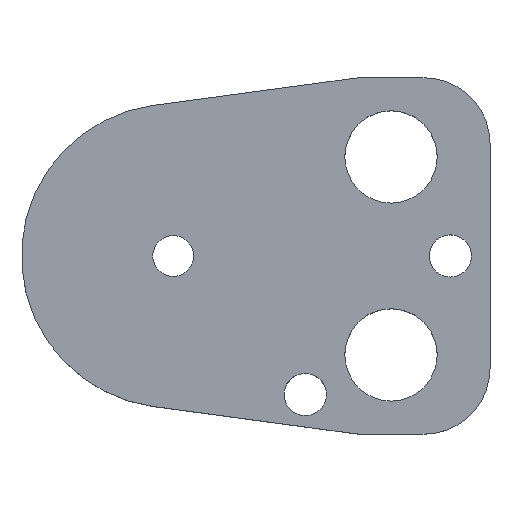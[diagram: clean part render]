
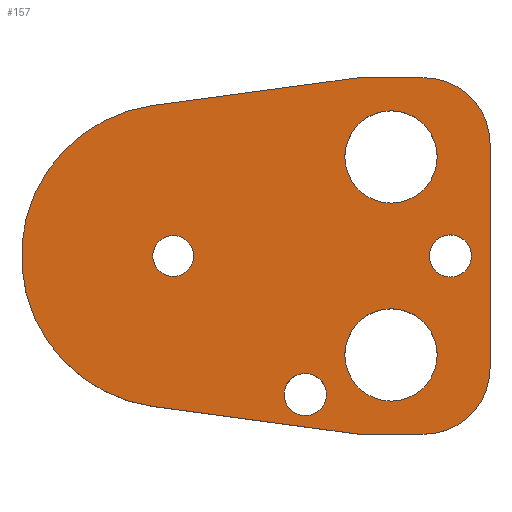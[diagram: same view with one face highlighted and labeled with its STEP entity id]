
A CAD part, top view. The second image highlights one B-rep face of the part: STEP entity #157.
In plain terms, the highlighted planar face has unit normal (0, 0, 1).
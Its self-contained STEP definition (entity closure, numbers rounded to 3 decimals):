
#103=FACE_BOUND('',#207,.T.);
#104=FACE_BOUND('',#208,.T.);
#105=FACE_BOUND('',#209,.T.);
#106=FACE_BOUND('',#210,.T.);
#107=FACE_BOUND('',#211,.T.);
#108=FACE_BOUND('',#212,.T.);
#122=CIRCLE('',#480,10.);
#124=CIRCLE('',#484,10.);
#127=CIRCLE('',#490,23.);
#138=CIRCLE('',#503,3.2);
#139=CIRCLE('',#504,3.2);
#140=CIRCLE('',#505,7.);
#141=CIRCLE('',#506,7.);
#142=CIRCLE('',#507,7.);
#143=CIRCLE('',#508,7.);
#144=CIRCLE('',#509,3.2);
#145=CIRCLE('',#510,3.2);
#146=CIRCLE('',#511,3.1);
#147=CIRCLE('',#512,3.1);
#157=ADVANCED_FACE('',(#103,#104,#105,#106,#107,#108),#174,.T.);
#174=PLANE('',#513);
#207=EDGE_LOOP('',(#273,#274,#275,#276,#277,#278,#279,#280));
#208=EDGE_LOOP('',(#281,#282));
#209=EDGE_LOOP('',(#283,#284));
#210=EDGE_LOOP('',(#285,#286));
#211=EDGE_LOOP('',(#287,#288));
#212=EDGE_LOOP('',(#289,#290));
#273=ORIENTED_EDGE('',*,*,#368,.T.);
#274=ORIENTED_EDGE('',*,*,#372,.T.);
#275=ORIENTED_EDGE('',*,*,#375,.T.);
#276=ORIENTED_EDGE('',*,*,#378,.T.);
#277=ORIENTED_EDGE('',*,*,#381,.T.);
#278=ORIENTED_EDGE('',*,*,#384,.T.);
#279=ORIENTED_EDGE('',*,*,#387,.T.);
#280=ORIENTED_EDGE('',*,*,#390,.T.);
#281=ORIENTED_EDGE('',*,*,#401,.T.);
#282=ORIENTED_EDGE('',*,*,#402,.T.);
#283=ORIENTED_EDGE('',*,*,#403,.T.);
#284=ORIENTED_EDGE('',*,*,#404,.T.);
#285=ORIENTED_EDGE('',*,*,#405,.T.);
#286=ORIENTED_EDGE('',*,*,#406,.T.);
#287=ORIENTED_EDGE('',*,*,#407,.T.);
#288=ORIENTED_EDGE('',*,*,#408,.T.);
#289=ORIENTED_EDGE('',*,*,#409,.T.);
#290=ORIENTED_EDGE('',*,*,#410,.T.);
#332=VERTEX_POINT('',#649);
#333=VERTEX_POINT('',#651);
#336=VERTEX_POINT('',#658);
#338=VERTEX_POINT('',#664);
#340=VERTEX_POINT('',#670);
#342=VERTEX_POINT('',#676);
#344=VERTEX_POINT('',#682);
#346=VERTEX_POINT('',#688);
#357=VERTEX_POINT('',#717);
#358=VERTEX_POINT('',#718);
#359=VERTEX_POINT('',#721);
#360=VERTEX_POINT('',#722);
#361=VERTEX_POINT('',#725);
#362=VERTEX_POINT('',#726);
#363=VERTEX_POINT('',#729);
#364=VERTEX_POINT('',#730);
#365=VERTEX_POINT('',#733);
#366=VERTEX_POINT('',#734);
#368=EDGE_CURVE('',#333,#332,#422,.T.);
#372=EDGE_CURVE('',#332,#336,#426,.T.);
#375=EDGE_CURVE('',#336,#338,#122,.T.);
#378=EDGE_CURVE('',#338,#340,#430,.T.);
#381=EDGE_CURVE('',#340,#342,#124,.T.);
#384=EDGE_CURVE('',#342,#344,#434,.T.);
#387=EDGE_CURVE('',#344,#346,#437,.T.);
#390=EDGE_CURVE('',#346,#333,#127,.T.);
#401=EDGE_CURVE('',#357,#358,#138,.T.);
#402=EDGE_CURVE('',#358,#357,#139,.T.);
#403=EDGE_CURVE('',#359,#360,#140,.T.);
#404=EDGE_CURVE('',#360,#359,#141,.T.);
#405=EDGE_CURVE('',#361,#362,#142,.T.);
#406=EDGE_CURVE('',#362,#361,#143,.T.);
#407=EDGE_CURVE('',#363,#364,#144,.T.);
#408=EDGE_CURVE('',#364,#363,#145,.T.);
#409=EDGE_CURVE('',#365,#366,#146,.T.);
#410=EDGE_CURVE('',#366,#365,#147,.T.);
#422=LINE('',#650,#450);
#426=LINE('',#659,#454);
#430=LINE('',#671,#458);
#434=LINE('',#683,#462);
#437=LINE('',#689,#465);
#450=VECTOR('',#527,1.);
#454=VECTOR('',#533,1.);
#458=VECTOR('',#545,1.);
#462=VECTOR('',#557,1.);
#465=VECTOR('',#562,1.);
#480=AXIS2_PLACEMENT_3D('',#665,#538,#539);
#484=AXIS2_PLACEMENT_3D('',#677,#550,#551);
#490=AXIS2_PLACEMENT_3D('',#693,#568,#569);
#503=AXIS2_PLACEMENT_3D('',#716,#594,#595);
#504=AXIS2_PLACEMENT_3D('',#719,#596,#597);
#505=AXIS2_PLACEMENT_3D('',#720,#598,#599);
#506=AXIS2_PLACEMENT_3D('',#723,#600,#601);
#507=AXIS2_PLACEMENT_3D('',#724,#602,#603);
#508=AXIS2_PLACEMENT_3D('',#727,#604,#605);
#509=AXIS2_PLACEMENT_3D('',#728,#606,#607);
#510=AXIS2_PLACEMENT_3D('',#731,#608,#609);
#511=AXIS2_PLACEMENT_3D('',#732,#610,#611);
#512=AXIS2_PLACEMENT_3D('',#735,#612,#613);
#513=AXIS2_PLACEMENT_3D('',#736,#614,#615);
#527=DIRECTION('',(0.991,-0.134,0.));
#533=DIRECTION('',(1.,0.,0.));
#538=DIRECTION('',(0.,0.,1.));
#539=DIRECTION('',(-0.707,0.707,0.));
#545=DIRECTION('',(0.,1.,0.));
#550=DIRECTION('',(0.,0.,1.));
#551=DIRECTION('',(-0.707,-0.707,0.));
#557=DIRECTION('',(-1.,0.,0.));
#562=DIRECTION('',(-0.991,-0.134,0.));
#568=DIRECTION('',(0.,0.,1.));
#569=DIRECTION('',(1.,0.,0.));
#594=DIRECTION('',(0.,0.,-1.));
#595=DIRECTION('',(-1.,0.,0.));
#596=DIRECTION('',(0.,0.,-1.));
#597=DIRECTION('',(1.,0.,0.));
#598=DIRECTION('',(0.,0.,-1.));
#599=DIRECTION('',(-1.,0.,0.));
#600=DIRECTION('',(0.,0.,-1.));
#601=DIRECTION('',(1.,0.,0.));
#602=DIRECTION('',(0.,0.,-1.));
#603=DIRECTION('',(-1.,0.,0.));
#604=DIRECTION('',(0.,0.,-1.));
#605=DIRECTION('',(1.,0.,0.));
#606=DIRECTION('',(0.,0.,-1.));
#607=DIRECTION('',(-1.,0.,0.));
#608=DIRECTION('',(0.,0.,-1.));
#609=DIRECTION('',(1.,0.,0.));
#610=DIRECTION('',(0.,0.,-1.));
#611=DIRECTION('',(-1.,0.,0.));
#612=DIRECTION('',(0.,0.,-1.));
#613=DIRECTION('',(1.,0.,0.));
#614=DIRECTION('',(0.,0.,1.));
#615=DIRECTION('',(0.991,-0.134,0.));
#649=CARTESIAN_POINT('',(28.,-27.,9.));
#650=CARTESIAN_POINT('',(28.,-27.,9.));
#651=CARTESIAN_POINT('',(-3.085,-22.792,9.));
#658=CARTESIAN_POINT('',(38.,-27.,9.));
#659=CARTESIAN_POINT('',(28.,-27.,9.));
#664=CARTESIAN_POINT('',(48.,-17.,9.));
#665=CARTESIAN_POINT('',(38.,-17.,9.));
#670=CARTESIAN_POINT('',(48.,17.,9.));
#671=CARTESIAN_POINT('',(48.,17.,9.));
#676=CARTESIAN_POINT('',(38.,27.,9.));
#677=CARTESIAN_POINT('',(38.,17.,9.));
#682=CARTESIAN_POINT('',(28.,27.,9.));
#683=CARTESIAN_POINT('',(28.,27.,9.));
#688=CARTESIAN_POINT('',(-3.085,22.792,9.));
#689=CARTESIAN_POINT('',(28.,27.,9.));
#693=CARTESIAN_POINT('',(0.,0.,9.));
#716=CARTESIAN_POINT('',(42.,0.,9.));
#717=CARTESIAN_POINT('',(42.,3.2,9.));
#718=CARTESIAN_POINT('',(42.,-3.2,9.));
#719=CARTESIAN_POINT('',(42.,0.,9.));
#720=CARTESIAN_POINT('',(33.,15.,9.));
#721=CARTESIAN_POINT('',(33.,22.,9.));
#722=CARTESIAN_POINT('',(33.,8.,9.));
#723=CARTESIAN_POINT('',(33.,15.,9.));
#724=CARTESIAN_POINT('',(33.,-15.,9.));
#725=CARTESIAN_POINT('',(33.,-8.,9.));
#726=CARTESIAN_POINT('',(33.,-22.,9.));
#727=CARTESIAN_POINT('',(33.,-15.,9.));
#728=CARTESIAN_POINT('',(20.,-21.,9.));
#729=CARTESIAN_POINT('',(20.,-17.8,9.));
#730=CARTESIAN_POINT('',(20.,-24.2,9.));
#731=CARTESIAN_POINT('',(20.,-21.,9.));
#732=CARTESIAN_POINT('',(0.,0.,9.));
#733=CARTESIAN_POINT('',(0.,3.1,9.));
#734=CARTESIAN_POINT('',(0.,-3.1,9.));
#735=CARTESIAN_POINT('',(0.,0.,9.));
#736=CARTESIAN_POINT('',(-3.085,-22.792,9.));
